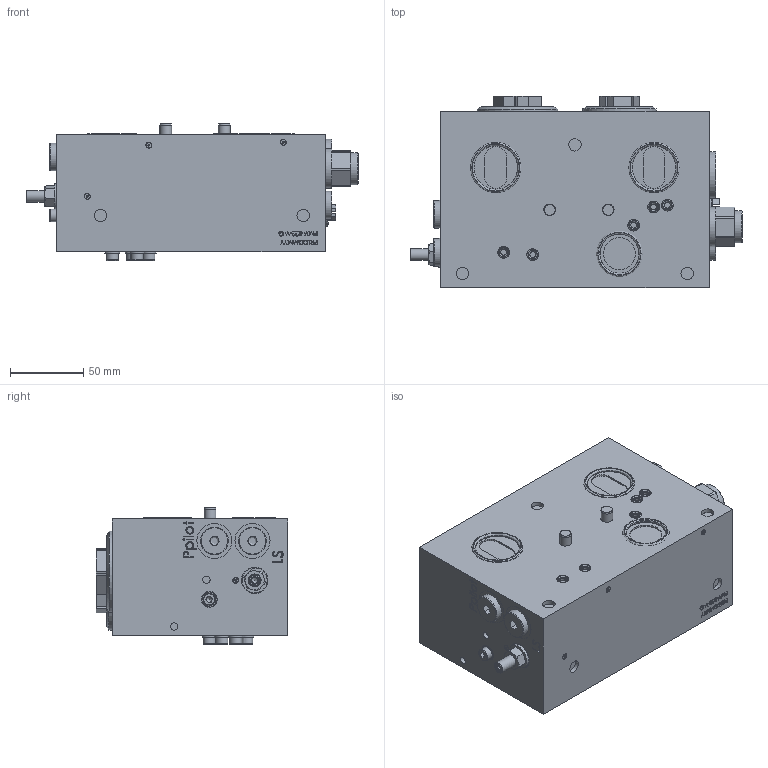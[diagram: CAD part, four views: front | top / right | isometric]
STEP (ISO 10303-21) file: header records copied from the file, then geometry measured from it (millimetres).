
FILE_DESCRIPTION (( 'STEP AP214' ), '1' );
FILE_NAME ('0304505.STEP', '2022-08-01T14:02:02', ( '' ), ( '' ), 'SwSTEP 2.0', 'SolidWorks 2020', '' );
FILE_SCHEMA (( 'AUTOMOTIVE_DESIGN' ));
Length unit declared in the file: millimetre
Products named in the file (19): 0072126_221.5560; 0072022_238.7401; 0290158_013; 0295366_001; 0283782_001; 0072022_238.3402; 0072022_238.2406; 0074697_246.2308; 0294817_002; 0304505; 0288965_003; 0290158_015; 0166400_001; 0290158_001; 0073837_049.2050; 0289301_002; 0287187_001; 0295364_001; 0073842_153.2402
Assembly tree (40 placements, depth 3):
  0304505
    0294817_002
    0283782_001  x7
    0289301_002
      0288965_003
      0072022_238.3402
    0072022_238.7401
    0072022_238.2406  x3
    0166400_001
    0287187_001
    0073842_153.2402
    0073837_049.2050  x5
    0074697_246.2308  x5
    0290158_001  x5
    0290158_013  x2
    0290158_015
    0295366_001
    0295364_001
    0072126_221.5560  x2
Bounding box: 227.08 x 130.7 x 94 mm (x, y, z)
Volume: 1826771 mm3; surface area: 147345.6 mm2
Topology: 56 solids, 56 shells, 1376 faces, 2987 edges, 1907 vertices
Faces by surface type: plane 770, cylinder 237, cone 204, bspline 148, torus 17
Full cylindrical faces by diameter (mm): 0.6 x7, 1.1 x7, 3.5 x7, 3.7 x1, 3.767 x7, 4 x13, 4.1 x1, 4.2 x4, 4.47 x5, 5 x11, 5.7 x5, 6 x1, 6.8 x1, 7 x1, 7.8 x5, 7.85 x10, 8 x5, 8.03 x5, 8.5 x15, 10 x5, 10.95 x1, 11.3 x3, 11.445 x4, 11.6 x3, 13.16 x1, 13.2 x3, 14.5 x1, 14.6 x1, 16.5 x3, 16.51 x3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
Entity records: 34790 total; most frequent: CARTESIAN_POINT 12108, ORIENTED_EDGE 4022, DIRECTION 3981, EDGE_CURVE 2011, VERTEX_POINT 1434, EDGE_LOOP 1345, AXIS2_PLACEMENT_3D 1338, VECTOR 1305
